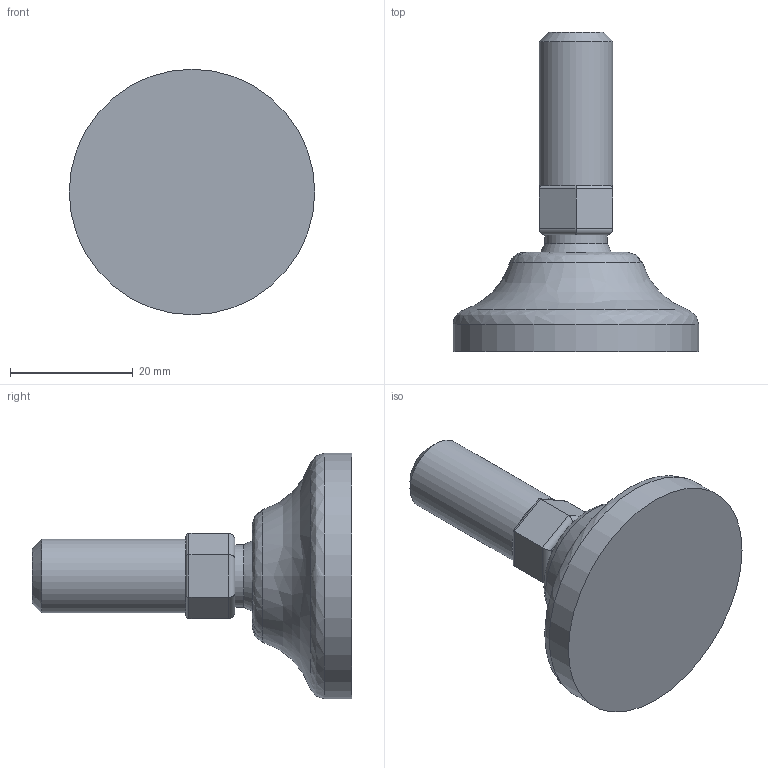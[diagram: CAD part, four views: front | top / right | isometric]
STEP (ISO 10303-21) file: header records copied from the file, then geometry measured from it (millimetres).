
FILE_DESCRIPTION(('STEP AP203'),'2;1');
FILE_NAME('10008-12.stp','2015-03-30T15:29:26',(''),(''),'2008.1.107','THINKDESIGN','');
FILE_SCHEMA(('CONFIG_CONTROL_DESIGN'));
Length unit declared in the file: millimetre
Bounding box: 40 x 52 x 40 mm (x, y, z)
Volume: 17332.4 mm3; surface area: 5556.7 mm2
Topology: 4 solids, 4 shells, 34 faces, 72 edges, 46 vertices
Faces by surface type: cylinder 15, plane 14, bspline 5
Full cylindrical faces by diameter (mm): 10.163 x1, 12 x1, 39.997 x1
Entity records: 1225 total; most frequent: CARTESIAN_POINT 419, DIRECTION 144, ORIENTED_EDGE 144, EDGE_CURVE 72, AXIS2_PLACEMENT_3D 55, VERTEX_POINT 46, EDGE_LOOP 34, FACE_OUTER_BOUND 34
